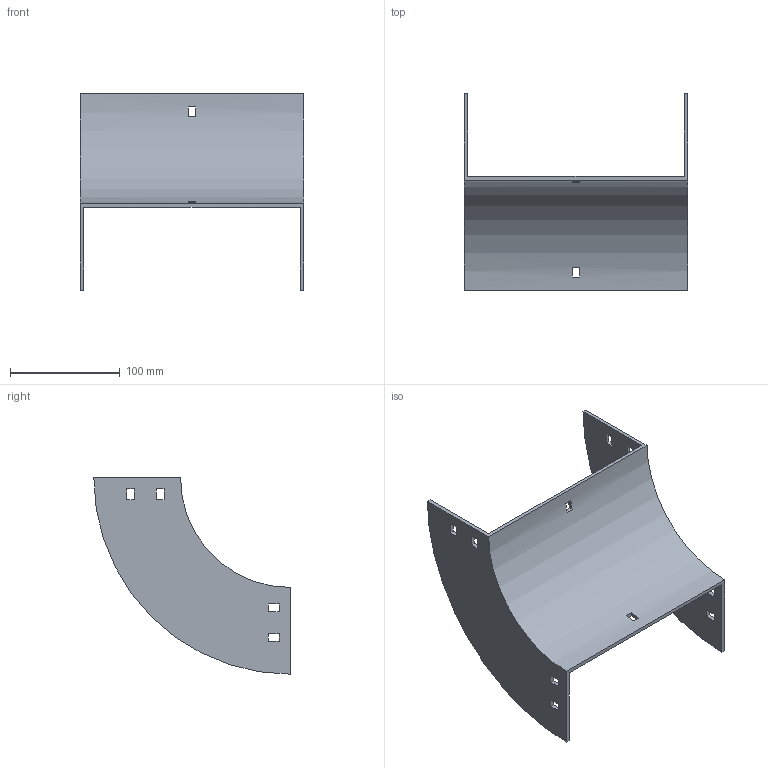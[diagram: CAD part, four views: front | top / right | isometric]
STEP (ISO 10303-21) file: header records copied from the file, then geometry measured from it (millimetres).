
FILE_DESCRIPTION (( 'STEP AP214' ), '1' );
FILE_NAME ('33B1C200.step', '2025-02-21T09:32:35', ( '' ), ( '' ), 'SwSTEP 2.0', 'SolidWorks 2023', '' );
FILE_SCHEMA (( 'AUTOMOTIVE_DESIGN' ));
Length unit declared in the file: millimetre
Products named in the file (1): 33B1C200
Bounding box: 204 x 179 x 179 mm (x, y, z)
Volume: 229003.4 mm3; surface area: 136465.1 mm2
Topology: 1 solids, 1 shells, 50 faces, 144 edges, 96 vertices
Faces by surface type: plane 46, cylinder 4
Entity records: 1687 total; most frequent: CARTESIAN_POINT 291, ORIENTED_EDGE 288, DIRECTION 262, EDGE_CURVE 144, VECTOR 128, LINE 128, VERTEX_POINT 96, EDGE_LOOP 70
